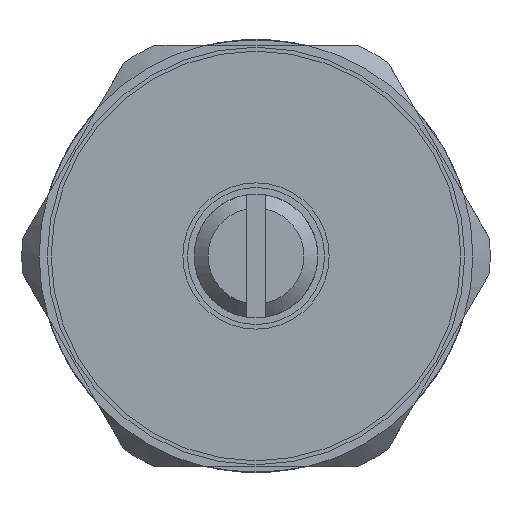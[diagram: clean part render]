
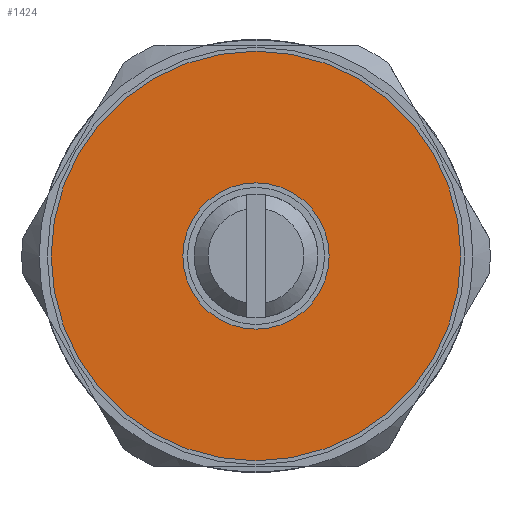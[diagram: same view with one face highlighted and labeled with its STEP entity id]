
A CAD part, left-side view. The second image highlights one B-rep face of the part: STEP entity #1424.
In plain terms, the highlighted planar face has unit normal (-1, 0, 0).
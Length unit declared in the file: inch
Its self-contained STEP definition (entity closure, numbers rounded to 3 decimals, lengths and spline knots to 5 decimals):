
#74=FACE_BOUND('',#236,.T.);
#102=PLANE('',#1559);
#155=FACE_OUTER_BOUND('',#235,.T.);
#235=EDGE_LOOP('',(#1049,#1050));
#236=EDGE_LOOP('',(#1051,#1052));
#426=CIRCLE('',#1504,0.14764);
#427=CIRCLE('',#1505,0.14764);
#456=CIRCLE('',#1560,0.41339);
#457=CIRCLE('',#1561,0.41339);
#540=VERTEX_POINT('',#2145);
#541=VERTEX_POINT('',#2146);
#594=VERTEX_POINT('',#2354);
#595=VERTEX_POINT('',#2355);
#688=EDGE_CURVE('',#540,#541,#426,.T.);
#689=EDGE_CURVE('',#541,#540,#427,.T.);
#769=EDGE_CURVE('',#594,#595,#456,.T.);
#770=EDGE_CURVE('',#595,#594,#457,.T.);
#1049=ORIENTED_EDGE('',*,*,#769,.T.);
#1050=ORIENTED_EDGE('',*,*,#770,.T.);
#1051=ORIENTED_EDGE('',*,*,#688,.T.);
#1052=ORIENTED_EDGE('',*,*,#689,.T.);
#1424=ADVANCED_FACE('',(#155,#74),#102,.T.);
#1504=AXIS2_PLACEMENT_3D('',#2147,#1705,#1706);
#1505=AXIS2_PLACEMENT_3D('',#2148,#1707,#1708);
#1559=AXIS2_PLACEMENT_3D('',#2353,#1842,#1843);
#1560=AXIS2_PLACEMENT_3D('',#2356,#1844,#1845);
#1561=AXIS2_PLACEMENT_3D('',#2357,#1846,#1847);
#1705=DIRECTION('center_axis',(1.,0.,0.));
#1706=DIRECTION('ref_axis',(0.,0.866,-0.5));
#1707=DIRECTION('center_axis',(1.,0.,0.));
#1708=DIRECTION('ref_axis',(0.,0.866,-0.5));
#1842=DIRECTION('center_axis',(-1.,0.,0.));
#1843=DIRECTION('ref_axis',(0.,0.866,-0.5));
#1844=DIRECTION('center_axis',(-1.,0.,0.));
#1845=DIRECTION('ref_axis',(0.,0.866,-0.5));
#1846=DIRECTION('center_axis',(-1.,0.,0.));
#1847=DIRECTION('ref_axis',(0.,0.866,-0.5));
#2145=CARTESIAN_POINT('',(-2.25408,0.22916,-0.41816));
#2146=CARTESIAN_POINT('',(-2.25408,-0.02656,-0.27052));
#2147=CARTESIAN_POINT('Origin',(-2.25408,0.1013,-0.34434));
#2148=CARTESIAN_POINT('Origin',(-2.25408,0.1013,-0.34434));
#2353=CARTESIAN_POINT('Origin',(-2.25408,0.1013,-0.34434));
#2354=CARTESIAN_POINT('',(-2.25408,0.4593,-0.55103));
#2355=CARTESIAN_POINT('',(-2.25408,-0.2567,-0.13765));
#2356=CARTESIAN_POINT('Origin',(-2.25408,0.1013,-0.34434));
#2357=CARTESIAN_POINT('Origin',(-2.25408,0.1013,-0.34434));
